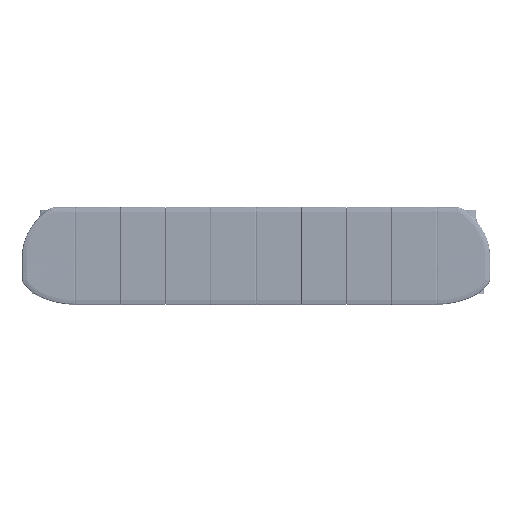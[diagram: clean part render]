
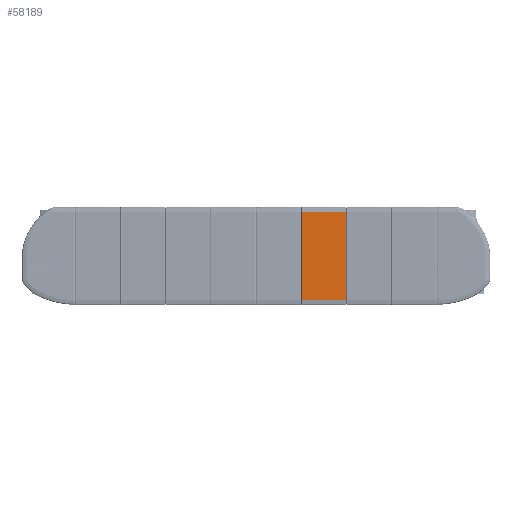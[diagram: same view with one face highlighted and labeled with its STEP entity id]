
A CAD part, top view. The second image highlights one B-rep face of the part: STEP entity #58189.
In plain terms, the highlighted planar face has unit normal (0, 0, 1).
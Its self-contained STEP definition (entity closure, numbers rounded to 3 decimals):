
#26091=FACE_OUTER_BOUND('',#116171,.T.);
#58189=ADVANCED_FACE('',(#26091),#88999,.T.);
#88999=PLANE('',#640112);
#116171=EDGE_LOOP('',(#316142,#316143,#316144,#316145));
#159624=LINE('',#934591,#224199);
#159625=LINE('',#934593,#224200);
#159626=LINE('',#934595,#224201);
#159627=LINE('',#934597,#224202);
#224199=VECTOR('',#721333,1.);
#224200=VECTOR('',#721336,1.);
#224201=VECTOR('',#721337,1.);
#224202=VECTOR('',#721338,1.);
#316142=ORIENTED_EDGE('',*,*,#537651,.T.);
#316143=ORIENTED_EDGE('',*,*,#537652,.T.);
#316144=ORIENTED_EDGE('',*,*,#537653,.T.);
#316145=ORIENTED_EDGE('',*,*,#537654,.T.);
#469887=VERTEX_POINT('',#934579);
#469890=VERTEX_POINT('',#934590);
#469891=VERTEX_POINT('',#934594);
#469892=VERTEX_POINT('',#934596);
#537651=EDGE_CURVE('',#469887,#469890,#159624,.T.);
#537652=EDGE_CURVE('',#469890,#469891,#159625,.T.);
#537653=EDGE_CURVE('',#469891,#469892,#159626,.T.);
#537654=EDGE_CURVE('',#469892,#469887,#159627,.T.);
#640112=AXIS2_PLACEMENT_3D('',#934598,#721339,#721340);
#721333=DIRECTION('',(-1.,0.,0.));
#721336=DIRECTION('',(0.,-1.,0.));
#721337=DIRECTION('',(1.,0.,0.));
#721338=DIRECTION('',(0.,1.,0.));
#721339=DIRECTION('',(0.,0.,1.));
#721340=DIRECTION('',(0.,1.,0.));
#934579=CARTESIAN_POINT('',(230.368,113.16,9.702));
#934590=CARTESIAN_POINT('',(117.631,113.16,9.702));
#934591=CARTESIAN_POINT('',(230.368,113.16,9.702));
#934593=CARTESIAN_POINT('',(117.631,113.16,9.702));
#934594=CARTESIAN_POINT('',(117.632,-113.161,9.702));
#934595=CARTESIAN_POINT('',(117.632,-113.161,9.702));
#934596=CARTESIAN_POINT('',(230.369,-113.161,9.702));
#934597=CARTESIAN_POINT('',(230.369,-113.161,9.702));
#934598=CARTESIAN_POINT('',(116.,113.16,9.702));
